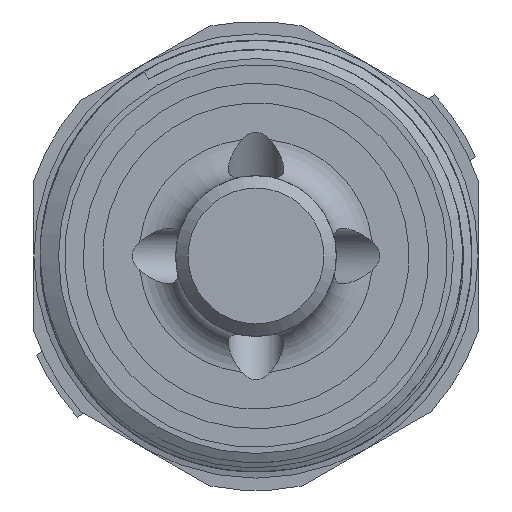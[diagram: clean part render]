
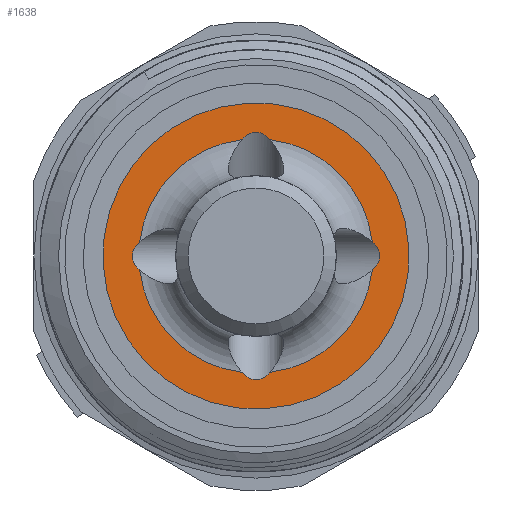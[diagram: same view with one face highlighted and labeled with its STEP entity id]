
A CAD part, front view. The second image highlights one B-rep face of the part: STEP entity #1638.
In plain terms, the highlighted planar face has unit normal (0, -1, 0).
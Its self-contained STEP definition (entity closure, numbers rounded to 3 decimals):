
#63=ELLIPSE('',#5976,4.5,2.25);
#64=ELLIPSE('',#5978,4.5,2.25);
#65=ELLIPSE('',#5980,4.5,2.25);
#66=ELLIPSE('',#5982,4.5,2.25);
#1638=ADVANCED_FACE('',(#2071,#2072),#1875,.T.);
#1875=PLANE('',#5983);
#2071=FACE_BOUND('',#2540,.T.);
#2072=FACE_BOUND('',#2541,.T.);
#2540=EDGE_LOOP('',(#3966,#3967,#3968,#3969,#3970,#3971,#3972,#3973));
#2541=EDGE_LOOP('',(#3974));
#3966=ORIENTED_EDGE('',*,*,#5193,.F.);
#3967=ORIENTED_EDGE('',*,*,#5176,.F.);
#3968=ORIENTED_EDGE('',*,*,#5191,.F.);
#3969=ORIENTED_EDGE('',*,*,#5188,.F.);
#3970=ORIENTED_EDGE('',*,*,#5195,.F.);
#3971=ORIENTED_EDGE('',*,*,#5178,.F.);
#3972=ORIENTED_EDGE('',*,*,#5189,.F.);
#3973=ORIENTED_EDGE('',*,*,#5170,.F.);
#3974=ORIENTED_EDGE('',*,*,#5168,.T.);
#4455=VERTEX_POINT('',#16974);
#4456=VERTEX_POINT('',#17001);
#4458=VERTEX_POINT('',#17004);
#4461=VERTEX_POINT('',#17059);
#4463=VERTEX_POINT('',#17087);
#4464=VERTEX_POINT('',#17115);
#4466=VERTEX_POINT('',#17118);
#4470=VERTEX_POINT('',#17216);
#4471=VERTEX_POINT('',#17242);
#5168=EDGE_CURVE('',#4455,#4455,#5397,.T.);
#5170=EDGE_CURVE('',#4456,#4458,#5398,.T.);
#5176=EDGE_CURVE('',#4463,#4461,#5401,.T.);
#5178=EDGE_CURVE('',#4464,#4466,#5402,.T.);
#5188=EDGE_CURVE('',#4471,#4470,#5405,.T.);
#5189=EDGE_CURVE('',#4458,#4464,#63,.T.);
#5191=EDGE_CURVE('',#4470,#4463,#64,.T.);
#5193=EDGE_CURVE('',#4461,#4456,#65,.T.);
#5195=EDGE_CURVE('',#4466,#4471,#66,.T.);
#5397=CIRCLE('',#5961,15.);
#5398=CIRCLE('',#5963,9.5);
#5401=CIRCLE('',#5967,9.5);
#5402=CIRCLE('',#5969,9.5);
#5405=CIRCLE('',#5974,9.5);
#5961=AXIS2_PLACEMENT_3D('',#16973,#7374,#7375);
#5963=AXIS2_PLACEMENT_3D('',#17003,#7378,#7379);
#5967=AXIS2_PLACEMENT_3D('',#17088,#7386,#7387);
#5969=AXIS2_PLACEMENT_3D('',#17117,#7390,#7391);
#5974=AXIS2_PLACEMENT_3D('',#17243,#7400,#7401);
#5976=AXIS2_PLACEMENT_3D('',#17245,#7404,#7405);
#5978=AXIS2_PLACEMENT_3D('',#17312,#7408,#7409);
#5980=AXIS2_PLACEMENT_3D('',#17379,#7412,#7413);
#5982=AXIS2_PLACEMENT_3D('',#17446,#7416,#7417);
#5983=AXIS2_PLACEMENT_3D('',#17447,#7418,#7419);
#7374=DIRECTION('',(0.,-1.,0.));
#7375=DIRECTION('',(-1.,0.,0.));
#7378=DIRECTION('',(0.,-1.,0.));
#7379=DIRECTION('',(-1.,0.,0.));
#7386=DIRECTION('',(0.,-1.,0.));
#7387=DIRECTION('',(-1.,0.,0.));
#7390=DIRECTION('',(0.,-1.,0.));
#7391=DIRECTION('',(-1.,0.,0.));
#7400=DIRECTION('',(0.,-1.,0.));
#7401=DIRECTION('',(-1.,0.,0.));
#7404=DIRECTION('',(0.,-1.,0.));
#7405=DIRECTION('',(0.,0.,-1.));
#7408=DIRECTION('',(0.,-1.,0.));
#7409=DIRECTION('',(0.,0.,1.));
#7412=DIRECTION('',(0.,-1.,0.));
#7413=DIRECTION('',(-1.,0.,0.));
#7416=DIRECTION('',(0.,-1.,0.));
#7417=DIRECTION('',(1.,0.,0.));
#7418=DIRECTION('',(0.,-1.,0.));
#7419=DIRECTION('',(1.,0.,0.));
#16973=CARTESIAN_POINT('',(7.801,-44.308,0.));
#16974=CARTESIAN_POINT('',(-7.199,-44.308,0.));
#17001=CARTESIAN_POINT('',(17.234,-44.308,1.121));
#17003=CARTESIAN_POINT('',(7.801,-44.308,0.));
#17004=CARTESIAN_POINT('',(8.922,-44.308,9.434));
#17059=CARTESIAN_POINT('',(17.234,-44.308,-1.121));
#17087=CARTESIAN_POINT('',(8.922,-44.308,-9.434));
#17088=CARTESIAN_POINT('',(7.801,-44.308,0.));
#17115=CARTESIAN_POINT('',(6.68,-44.308,9.434));
#17117=CARTESIAN_POINT('',(7.801,-44.308,0.));
#17118=CARTESIAN_POINT('',(-1.633,-44.308,1.121));
#17216=CARTESIAN_POINT('',(6.68,-44.308,-9.434));
#17242=CARTESIAN_POINT('',(-1.633,-44.308,-1.121));
#17243=CARTESIAN_POINT('',(7.801,-44.308,0.));
#17245=CARTESIAN_POINT('',(7.801,-44.308,5.532));
#17312=CARTESIAN_POINT('',(7.801,-44.308,-5.532));
#17379=CARTESIAN_POINT('',(13.333,-44.308,0.));
#17446=CARTESIAN_POINT('',(2.269,-44.308,0.));
#17447=CARTESIAN_POINT('',(7.801,-44.308,-9.5));
